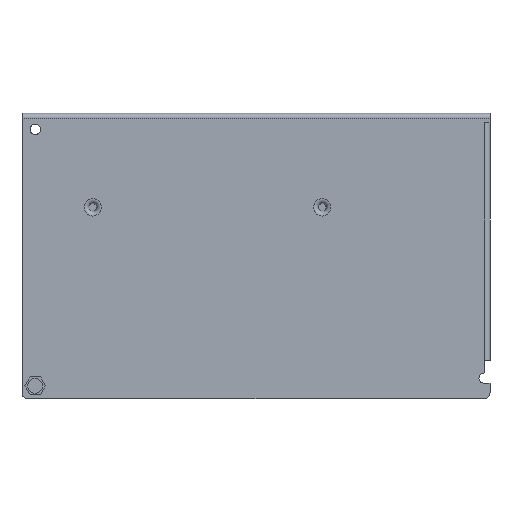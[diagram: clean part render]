
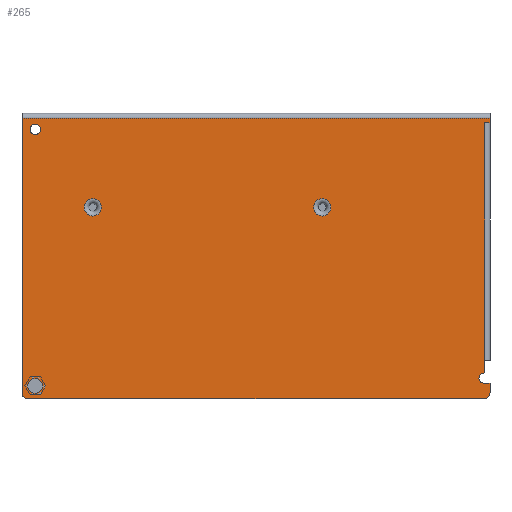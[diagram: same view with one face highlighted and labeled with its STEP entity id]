
A CAD part, front view. The second image highlights one B-rep face of the part: STEP entity #265.
In plain terms, the highlighted planar face has unit normal (0, -1, 0).
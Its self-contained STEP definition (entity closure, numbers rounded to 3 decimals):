
#107=CARTESIAN_POINT('',(0.0,-1.6,0.0));
#108=DIRECTION('',(0.0,1.0,0.0));
#109=DIRECTION('',(0.0,0.0,1.0));
#110=AXIS2_PLACEMENT_3D('',#107,#108,#109);
#111=PLANE('',#110);
#112=CARTESIAN_POINT('',(77.5,-1.6,-48.5));
#113=VERTEX_POINT('',#112);
#114=CARTESIAN_POINT('',(79.5,-1.6,-46.5));
#115=VERTEX_POINT('',#114);
#116=CARTESIAN_POINT('',(77.5,-1.6,-46.5));
#117=DIRECTION('',(0.0,-1.0,0.0));
#118=DIRECTION('',(0.0,0.0,-1.0));
#119=AXIS2_PLACEMENT_3D('',#116,#117,#118);
#120=CIRCLE('',#119,2.0);
#121=EDGE_CURVE('',#113,#115,#120,.T.);
#122=ORIENTED_EDGE('',*,*,#121,.T.);
#123=CARTESIAN_POINT('',(79.5,-1.6,-43.25));
#124=VERTEX_POINT('',#123);
#125=CARTESIAN_POINT('',(79.5,-1.6,-43.25));
#126=DIRECTION('',(0.0,0.0,-1.0));
#127=VECTOR('',#126,3.25);
#128=LINE('',#125,#127);
#129=EDGE_CURVE('',#124,#115,#128,.T.);
#130=ORIENTED_EDGE('',*,*,#129,.F.);
#131=CARTESIAN_POINT('',(77.5,-1.6,-43.25));
#132=VERTEX_POINT('',#131);
#133=CARTESIAN_POINT('',(79.5,-1.6,-43.25));
#134=DIRECTION('',(-1.0,0.0,0.0));
#135=VECTOR('',#134,2.0);
#136=LINE('',#133,#135);
#137=EDGE_CURVE('',#124,#132,#136,.T.);
#138=ORIENTED_EDGE('',*,*,#137,.T.);
#139=CARTESIAN_POINT('',(77.5,-1.6,-39.75));
#140=VERTEX_POINT('',#139);
#141=CARTESIAN_POINT('',(77.5,-1.6,-41.5));
#142=DIRECTION('',(0.0,1.0,0.0));
#143=DIRECTION('',(0.0,0.0,-1.0));
#144=AXIS2_PLACEMENT_3D('',#141,#142,#143);
#145=CIRCLE('',#144,1.75);
#146=EDGE_CURVE('',#132,#140,#145,.T.);
#147=ORIENTED_EDGE('',*,*,#146,.T.);
#148=CARTESIAN_POINT('',(77.8,-1.6,-39.75));
#149=VERTEX_POINT('',#148);
#150=CARTESIAN_POINT('',(77.8,-1.6,-39.75));
#151=DIRECTION('',(-1.0,0.0,0.0));
#152=VECTOR('',#151,0.3);
#153=LINE('',#150,#152);
#154=EDGE_CURVE('',#149,#140,#153,.T.);
#155=ORIENTED_EDGE('',*,*,#154,.F.);
#156=CARTESIAN_POINT('',(77.8,-1.6,-35.5));
#157=VERTEX_POINT('',#156);
#158=CARTESIAN_POINT('',(77.8,-1.6,-35.5));
#159=DIRECTION('',(0.0,0.0,-1.0));
#160=VECTOR('',#159,4.25);
#161=LINE('',#158,#160);
#162=EDGE_CURVE('',#157,#149,#161,.T.);
#163=ORIENTED_EDGE('',*,*,#162,.F.);
#164=CARTESIAN_POINT('',(77.8,-1.6,45.3));
#165=VERTEX_POINT('',#164);
#166=CARTESIAN_POINT('',(77.8,-1.6,45.3));
#167=DIRECTION('',(0.0,0.0,-1.0));
#168=VECTOR('',#167,80.8);
#169=LINE('',#166,#168);
#170=EDGE_CURVE('',#165,#157,#169,.T.);
#171=ORIENTED_EDGE('',*,*,#170,.F.);
#172=CARTESIAN_POINT('',(79.5,-1.6,45.3));
#173=VERTEX_POINT('',#172);
#174=CARTESIAN_POINT('',(77.8,-1.6,45.3));
#175=DIRECTION('',(1.0,0.0,0.0));
#176=VECTOR('',#175,1.7);
#177=LINE('',#174,#176);
#178=EDGE_CURVE('',#165,#173,#177,.T.);
#179=ORIENTED_EDGE('',*,*,#178,.T.);
#180=CARTESIAN_POINT('',(79.5,-1.6,46.8));
#181=VERTEX_POINT('',#180);
#182=CARTESIAN_POINT('',(79.5,-1.6,46.8));
#183=DIRECTION('',(0.0,0.0,-1.0));
#184=VECTOR('',#183,1.5);
#185=LINE('',#182,#184);
#186=EDGE_CURVE('',#181,#173,#185,.T.);
#187=ORIENTED_EDGE('',*,*,#186,.F.);
#188=CARTESIAN_POINT('',(-79.5,-1.6,46.8));
#189=VERTEX_POINT('',#188);
#190=CARTESIAN_POINT('',(-79.5,-1.6,46.8));
#191=DIRECTION('',(1.0,0.0,0.0));
#192=VECTOR('',#191,159.0);
#193=LINE('',#190,#192);
#194=EDGE_CURVE('',#189,#181,#193,.T.);
#195=ORIENTED_EDGE('',*,*,#194,.F.);
#196=CARTESIAN_POINT('',(-79.5,-1.6,-46.5));
#197=VERTEX_POINT('',#196);
#198=CARTESIAN_POINT('',(-79.5,-1.6,-46.5));
#199=DIRECTION('',(0.0,0.0,1.0));
#200=VECTOR('',#199,93.3);
#201=LINE('',#198,#200);
#202=EDGE_CURVE('',#197,#189,#201,.T.);
#203=ORIENTED_EDGE('',*,*,#202,.F.);
#204=CARTESIAN_POINT('',(-77.5,-1.6,-48.5));
#205=VERTEX_POINT('',#204);
#206=CARTESIAN_POINT('',(-77.5,-1.6,-46.5));
#207=DIRECTION('',(0.0,-1.0,0.0));
#208=DIRECTION('',(-1.0,0.0,0.0));
#209=AXIS2_PLACEMENT_3D('',#206,#207,#208);
#210=CIRCLE('',#209,2.0);
#211=EDGE_CURVE('',#197,#205,#210,.T.);
#212=ORIENTED_EDGE('',*,*,#211,.T.);
#213=CARTESIAN_POINT('',(77.5,-1.6,-48.5));
#214=DIRECTION('',(-1.0,0.0,0.0));
#215=VECTOR('',#214,155.0);
#216=LINE('',#213,#215);
#217=EDGE_CURVE('',#113,#205,#216,.T.);
#218=ORIENTED_EDGE('',*,*,#217,.F.);
#219=EDGE_LOOP('',(#122,#130,#138,#147,#155,#163,#171,#179,#187,#195,#203,#212,#218));
#220=FACE_OUTER_BOUND('',#219,.T.);
#221=CARTESIAN_POINT('',(-75.0,-1.6,-41.6));
#222=VERTEX_POINT('',#221);
#223=CARTESIAN_POINT('',(-75.0,-1.6,-44.1));
#224=DIRECTION('',(0.0,1.0,0.0));
#225=DIRECTION('',(0.0,0.0,1.0));
#226=AXIS2_PLACEMENT_3D('',#223,#224,#225);
#227=CIRCLE('',#226,2.5);
#228=EDGE_CURVE('',#222,#222,#227,.T.);
#229=ORIENTED_EDGE('',*,*,#228,.T.);
#230=EDGE_LOOP('',(#229));
#231=FACE_BOUND('',#230,.T.);
#232=CARTESIAN_POINT('',(-75.0,-1.6,44.75));
#233=VERTEX_POINT('',#232);
#234=CARTESIAN_POINT('',(-75.0,-1.6,43.0));
#235=DIRECTION('',(0.0,1.0,0.0));
#236=DIRECTION('',(0.0,0.0,1.0));
#237=AXIS2_PLACEMENT_3D('',#234,#235,#236);
#238=CIRCLE('',#237,1.75);
#239=EDGE_CURVE('',#233,#233,#238,.T.);
#240=ORIENTED_EDGE('',*,*,#239,.T.);
#241=EDGE_LOOP('',(#240));
#242=FACE_BOUND('',#241,.T.);
#243=CARTESIAN_POINT('',(22.5,-1.6,19.425));
#244=VERTEX_POINT('',#243);
#245=CARTESIAN_POINT('',(22.5,-1.6,16.5));
#246=DIRECTION('',(0.0,-1.0,0.0));
#247=DIRECTION('',(0.0,0.0,-1.0));
#248=AXIS2_PLACEMENT_3D('',#245,#246,#247);
#249=CIRCLE('',#248,2.925);
#250=EDGE_CURVE('',#244,#244,#249,.T.);
#251=ORIENTED_EDGE('',*,*,#250,.F.);
#252=EDGE_LOOP('',(#251));
#253=FACE_BOUND('',#252,.T.);
#254=CARTESIAN_POINT('',(-55.5,-1.6,19.425));
#255=VERTEX_POINT('',#254);
#256=CARTESIAN_POINT('',(-55.5,-1.6,16.5));
#257=DIRECTION('',(0.0,-1.0,0.0));
#258=DIRECTION('',(0.0,0.0,1.0));
#259=AXIS2_PLACEMENT_3D('',#256,#257,#258);
#260=CIRCLE('',#259,2.925);
#261=EDGE_CURVE('',#255,#255,#260,.T.);
#262=ORIENTED_EDGE('',*,*,#261,.F.);
#263=EDGE_LOOP('',(#262));
#264=FACE_BOUND('',#263,.T.);
#265=ADVANCED_FACE('',(#220,#231,#242,#253,#264),#111,.F.);
